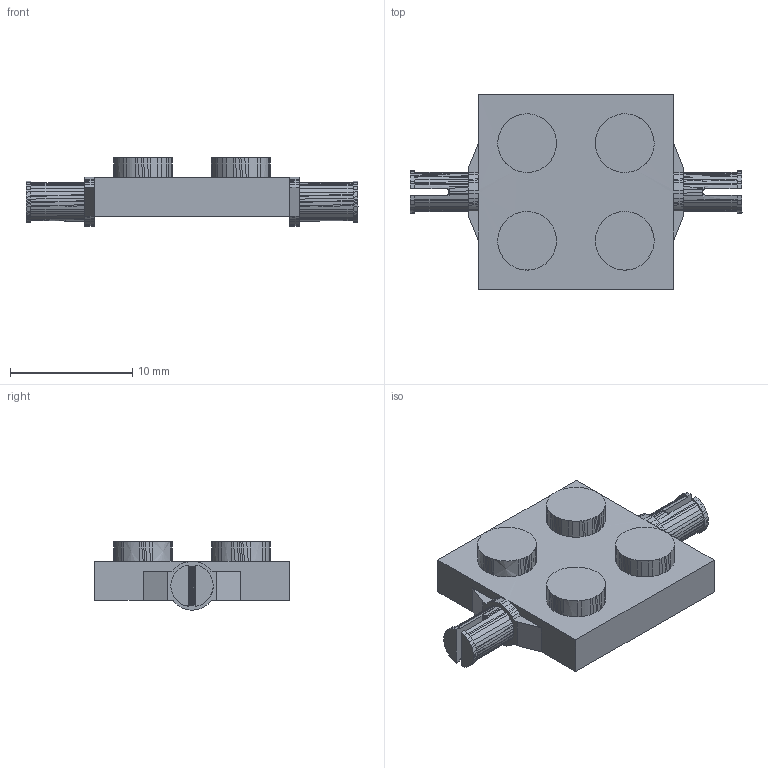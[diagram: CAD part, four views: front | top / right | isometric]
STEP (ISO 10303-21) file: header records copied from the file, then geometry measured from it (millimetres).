
FILE_DESCRIPTION(('Open CASCADE Model'),'2;1');
FILE_NAME('Open CASCADE Shape Model','2026-10-23T17:33:13',('Author'),( 'Open CASCADE'),'Open CASCADE STEP processor 7.9','Open CASCADE 7.9' ,'Unknown');
FILE_SCHEMA(('AUTOMOTIVE_DESIGN { 1 0 10303 214 1 1 1 1 }'));
Products named in the file (1): Open CASCADE STEP translator 7.9 1
Bounding box: 27.2 x 15.99 x 5.6 mm (x, y, z)
Volume: 807.4 mm3; surface area: 1125.9 mm2
Topology: 1 solids, 1 shells, 688 faces, 1828 edges, 1142 vertices
Faces by surface type: plane 655, bspline 33
Entity records: 45345 total; most frequent: CARTESIAN_POINT 11910, DIRECTION 5066, ORIENTED_EDGE 3656, PCURVE 3656, DEFINITIONAL_REPRESENTATION 3656, LINE 3602, VECTOR 3602, EDGE_CURVE 1828
